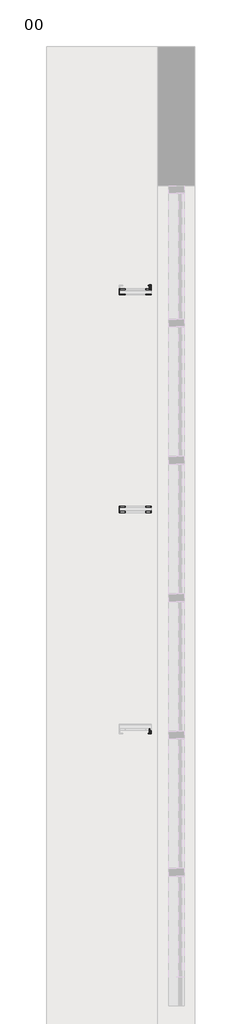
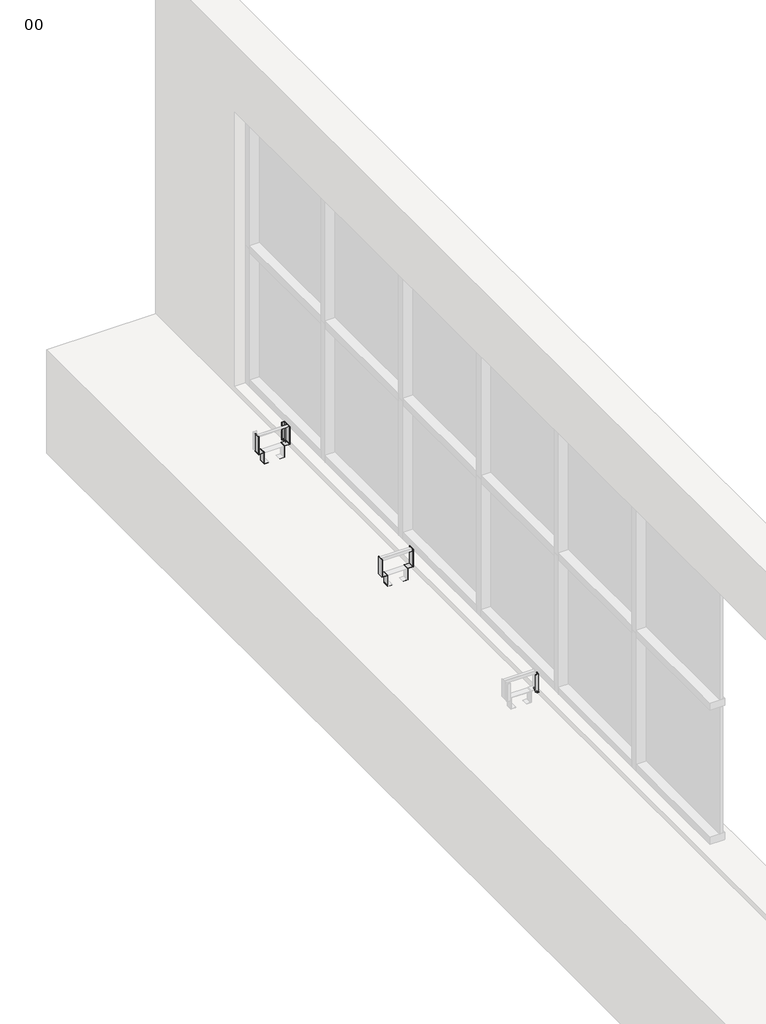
# One storey, part 4 of 4: 6 proxies.
"""IFC4 building model written with IfcOpenShell, lengths in millimetres."""

import ifcopenshell
import ifcopenshell.guid

model = None  # the IFC model being written
_history = None  # IfcOwnerHistory: only IFC2X3 demands one
_inside = {}  # id of a spatial element -> (the spatial element, [elements in it])
_under = {}  # id of a project, library or spatial element -> (it, [spatial elements below it])
_declared = {}  # id of a project -> (the project, [libraries it declares])
_typed = {}  # id of a type object -> (the type object, [elements of that type])
_made_of = {}  # id of a material, layer set ... -> (it, [elements and type objects made of it])


def new_model(schema):
    """Start an empty IFC model of exactly this schema.

    Asked for "IFC4X3", IfcOpenShell would pick the latest addendum, in which some entities
    have other attributes; the version numbers below select the first issue.
    IFC2X3 requires an IfcOwnerHistory on every rooted entity: one is made here for all.
    """
    global model, _history
    if schema == "IFC4X3":
        model = ifcopenshell.file(schema_version=(4, 3, 0, 0))
    else:
        model = ifcopenshell.file(schema=schema)
    _inside.clear()
    _under.clear()
    _declared.clear()
    _typed.clear()
    _made_of.clear()
    _history = None
    if model.schema == "IFC2X3":
        org = make("IfcOrganization", Name="unknown")
        user = make(
            "IfcPersonAndOrganization",
            ThePerson=make("IfcPerson", FamilyName="unknown"),
            TheOrganization=org,
        )
        app = make(
            "IfcApplication",
            ApplicationDeveloper=org,
            Version="unknown",
            ApplicationFullName="unknown",
            ApplicationIdentifier="unknown",
        )
        _history = make(
            "IfcOwnerHistory",
            OwningUser=user,
            OwningApplication=app,
            ChangeAction="ADDED",
            CreationDate=0,
        )
    return model


def make(cls, **values):
    """One entity of the class cls with the attributes given. An attribute that is None is left unset."""
    return model.create_entity(
        cls, **{name: value for name, value in values.items() if value is not None}
    )


def rooted(cls, **values):
    """An entity with a GlobalId (a new one), such as an element, a storey or a relation."""
    return make(cls, GlobalId=ifcopenshell.guid.new(), OwnerHistory=_history, **values)


def si_unit(unit_type, name, prefix=None):
    """IfcSIUnit, for example si_unit("LENGTHUNIT", "METRE", prefix="MILLI")."""
    return make("IfcSIUnit", UnitType=unit_type, Prefix=prefix, Name=name)


def assignment(units):
    """IfcUnitAssignment: the units of a project."""
    return None if units is None else make("IfcUnitAssignment", Units=units)


def point(xyz):
    """IfcCartesianPoint."""
    return None if xyz is None else make("IfcCartesianPoint", Coordinates=xyz)


def direction(xyz):
    """IfcDirection."""
    return None if xyz is None else make("IfcDirection", DirectionRatios=xyz)


def frame(location, z_axis=None, x_axis=None):
    """IfcAxis2Placement3D, a coordinate frame: its origin and axes. An axis left out is left unset."""
    return make(
        "IfcAxis2Placement3D",
        Location=point(location),
        Axis=direction(z_axis),
        RefDirection=direction(x_axis),
    )


def frame_2d(location, x_axis=None):
    """IfcAxis2Placement2D, a coordinate frame in the plane: its origin and x axis."""
    return make(
        "IfcAxis2Placement2D", Location=point(location), RefDirection=direction(x_axis)
    )


def origin():
    """The frame at (0, 0, 0) with its axes left unset."""
    return frame((0.0, 0.0, 0.0))


def place(relative_to, where):
    """IfcLocalPlacement: puts the frame where relative to a parent placement (None: the world)."""
    return make(
        "IfcLocalPlacement", PlacementRelTo=relative_to, RelativePlacement=where
    )


def context(
    kind, dimensions, precision=None, world=None, true_north=None, identifier=None
):
    """IfcGeometricRepresentationContext, for example the 3D "Model" context."""
    return make(
        "IfcGeometricRepresentationContext",
        ContextIdentifier=identifier,
        ContextType=kind,
        CoordinateSpaceDimension=dimensions,
        Precision=precision,
        WorldCoordinateSystem=world,
        TrueNorth=true_north,
    )


def project(units=None, contexts=None):
    """IfcProject with its units and contexts."""
    return rooted(
        "IfcProject",
        Name="project",
        RepresentationContexts=contexts,
        UnitsInContext=assignment(units),
    )


def spatial(cls, under=None, at=None, **own):
    """A site, building, storey or space (cls), placed at a placement, below another one or the project."""
    s = rooted(cls, ObjectPlacement=at, **own)
    if under is not None:
        _under.setdefault(under.id(), (under, []))[1].append(s)
    return s


def polyline(points):
    """IfcPolyline through the points."""
    return make("IfcPolyline", Points=[point(p) for p in points])


def circle_curve(where, radius):
    """IfcCircle in the frame where."""
    return make("IfcCircle", Position=where, Radius=radius)


def trimmed(basis, trim1, trim2, sense, master):
    """IfcTrimmedCurve: the piece of a basis curve between two trims."""
    return make(
        "IfcTrimmedCurve",
        BasisCurve=basis,
        Trim1=trim1,
        Trim2=trim2,
        SenseAgreement=sense,
        MasterRepresentation=master,
    )


def segment(curve, same_sense, transition):
    """IfcCompositeCurveSegment."""
    return make(
        "IfcCompositeCurveSegment",
        Transition=transition,
        SameSense=same_sense,
        ParentCurve=curve,
    )


def composite_curve(segments, self_intersect=None):
    """IfcCompositeCurve: segments joined end to end."""
    return make("IfcCompositeCurve", Segments=segments, SelfIntersect=self_intersect)


def outline(outer, holes=None, kind="AREA"):
    """IfcArbitraryClosedProfileDef: a profile drawn as a closed curve; with holes, ...WithVoids."""
    if holes is None:
        return make("IfcArbitraryClosedProfileDef", ProfileType=kind, OuterCurve=outer)
    return make(
        "IfcArbitraryProfileDefWithVoids",
        ProfileType=kind,
        OuterCurve=outer,
        InnerCurves=holes,
    )


def extrude(swept, where, along, depth):
    """IfcExtrudedAreaSolid: the profile swept, set in the frame where, extruded along a direction by depth."""
    return make(
        "IfcExtrudedAreaSolid",
        SweptArea=swept,
        Position=where,
        ExtrudedDirection=direction(along),
        Depth=depth,
    )


def shape(context_of_items, identifier, shape_type, items):
    """IfcShapeRepresentation: the items that make up one representation, for example the "Body"."""
    return make(
        "IfcShapeRepresentation",
        ContextOfItems=context_of_items,
        RepresentationIdentifier=identifier,
        RepresentationType=shape_type,
        Items=items,
    )


def made_of(thing, what):
    """Note that an element or type object is made of a material, layer set ...; save() writes the relation."""
    if what is not None:
        _made_of.setdefault(what.id(), (what, []))[1].append(thing)
    return thing


def element(
    cls,
    number,
    at=None,
    inside=None,
    cuts=None,
    type_object=None,
    material=None,
    context=None,
    identifier="Body",
    shape_type=None,
    held_by="IfcProductDefinitionShape",
    body=None,
    shapes=None,
    **own,
):
    """One element of the class cls, such as IfcWall. Its Tag is "e" and its number.

    at: its placement. inside: the storey or other place that contains it. cuts: it is an
    opening in that element (IfcRelVoidsElement). A single representation is given by context,
    identifier, shape_type and body (its items); several are given by shapes. held_by: the class
    of the entity that holds the representations. save() writes the other relations.
    """
    e = rooted(cls, Tag="e%d" % number, ObjectPlacement=at, **own)
    if body is not None:
        shapes = [shape(context, identifier, shape_type, body)]
    if shapes is not None:
        e.Representation = make(held_by, Representations=shapes)
    if inside is not None:
        _inside.setdefault(inside.id(), (inside, []))[1].append(e)
    if cuts is not None:
        rooted(
            "IfcRelVoidsElement", RelatingBuildingElement=cuts, RelatedOpeningElement=e
        )
    if type_object is not None:
        _typed.setdefault(type_object.id(), (type_object, []))[1].append(e)
    return made_of(e, material)


def aggregate(whole, parts):
    """IfcRelAggregates: a whole, such as a stair, and the parts it consists of."""
    return rooted("IfcRelAggregates", RelatingObject=whole, RelatedObjects=parts)


def save(model, path):
    """Write the relations noted so far, then the file.

    IfcRelAggregates (storeys below a building ...), IfcRelContainedInSpatialStructure (elements
    in a storey), IfcRelDefinesByType, IfcRelAssociatesMaterial and IfcRelDeclares: one each for
    every whole, place, type object, material and project.
    """
    for whole, parts in _under.values():
        aggregate(whole, parts)
    for where, things in _inside.values():
        rooted(
            "IfcRelContainedInSpatialStructure",
            RelatedElements=things,
            RelatingStructure=where,
        )
    for kind, things in _typed.values():
        rooted("IfcRelDefinesByType", RelatedObjects=things, RelatingType=kind)
    for what, things in _made_of.values():
        rooted("IfcRelAssociatesMaterial", RelatedObjects=things, RelatingMaterial=what)
    for by, libraries in _declared.values():
        rooted("IfcRelDeclares", RelatingContext=by, RelatedDefinitions=libraries)
    model.write(path)


def plane_surface(at):
    """IfcPlane: the flat surface through the origin of the frame at, square to its z axis."""
    return make("IfcPlane", Position=at)


def cylinder_surface(at, radius):
    """IfcCylindricalSurface: all points at the distance radius from the z axis of the frame at."""
    return make("IfcCylindricalSurface", Position=at, Radius=radius)


def revolved_surface(curve, axis_point, axis_direction):
    """IfcSurfaceOfRevolution: the curve turned about the line through axis_point along axis_direction."""
    return make(
        "IfcSurfaceOfRevolution",
        SweptCurve=make("IfcArbitraryOpenProfileDef", ProfileType="CURVE", Curve=curve),
        AxisPosition=make("IfcAxis1Placement", Location=point(axis_point), Axis=direction(axis_direction)),
    )


def advanced_brep(points, edges, surfaces, faces):
    """IfcAdvancedBrep: a solid bounded by faces that lie on surfaces and meet in shared edges.

    An edge is (start, end): straight between two places in points (the first is 0);
    or (start, end, curve); or (start, end, curve, False) where it runs against its curve.
    A face is (place in surfaces, loops), or (place, loops, False) where it looks against
    its surface's normal. A loop lists edges by number (the first is 1), with a minus sign
    where the edge is run from its end to its start. The first loop is the outer one.
    """
    corners = [point(p) for p in points]
    vertices = [make("IfcVertexPoint", VertexGeometry=c) for c in corners]
    made = []
    for start, end, *more in edges:
        made.append(
            make(
                "IfcEdgeCurve",
                EdgeStart=vertices[start],
                EdgeEnd=vertices[end],
                EdgeGeometry=more[0] if more else make("IfcPolyline", Points=[corners[start], corners[end]]),
                SameSense=more[1] if len(more) > 1 else True,
            )
        )
    hull = []
    for where, loops, *sense in faces:
        bounds = []
        for j, loop in enumerate(loops):
            ring = [make("IfcOrientedEdge", EdgeElement=made[abs(k) - 1], Orientation=k > 0) for k in loop]
            bounds.append(
                make(
                    "IfcFaceOuterBound" if j == 0 else "IfcFaceBound",
                    Bound=make("IfcEdgeLoop", EdgeList=ring),
                    Orientation=True,
                )
            )
        hull.append(make("IfcAdvancedFace", Bounds=bounds, FaceSurface=surfaces[where], SameSense=sense[0] if sense else True))
    return make("IfcAdvancedBrep", Outer=make("IfcClosedShell", CfsFaces=hull))


model = new_model("IFC4")

# Units and contexts
model_context = context("Model", 3, world=origin())
ifc_project = project(units=[si_unit("LENGTHUNIT", "METRE", prefix="MILLI")], contexts=[model_context])

# Site, building, storey
site = spatial("IfcSite", under=ifc_project)
building = spatial("IfcBuilding", under=site)
storey = spatial("IfcBuildingStorey", under=building, Name="00", Elevation=0.0)

# Proxies
placement = place(None, origin())
element("IfcBuildingElementProxy", 1, Name="Support Bracket 10 : Support Bracket 5", ObjectType="Support Bracket 10 : Support Bracket 5", at=placement, inside=storey, context=model_context, shape_type="AdvancedBrep", body=[
    advanced_brep(
    [(15892.2196715, 4669.1798189, 1014.9334541), (15892.2196715, 4669.1798189, 1025.525), (15889.0446715, 4669.1798189, 1025.525), (15889.0446715, 4669.1798189, 1013.5976257), (15893.1907346, 4669.1798189, 1009.4515625), (15904.9196715, 4669.1798189, 1009.4515625), (15904.9196715, 4669.1798189, 1012.6265625), (15894.5265631, 4669.1798189, 1012.6265625), (15889.0446715, 4717.9054803, 1025.525), (15892.2196715, 4717.9054803, 1025.525), (15892.2196715, 4717.9054803, 1014.9334541), (15894.5265631, 4717.9054803, 1012.6265625), (15904.9196715, 4717.9054803, 1012.6265625), (15904.9196715, 4717.9054803, 1009.4515625), (15893.1907346, 4717.9054803, 1009.4515625), (15889.0446715, 4717.9054803, 1013.5976257), (15889.0446715, 4715.3654803, 1025.525), (15892.2196715, 4715.3654803, 1025.525), (15889.0446715, 4712.1904803, 1025.525), (15889.0446715, 4712.1904803, 1014.7101563), (15889.0446715, 4715.3654803, 1014.7101563), (15892.2196715, 4715.3654803, 1014.9334541), (15892.2305041, 4715.3654803, 1014.7101563), (15892.2305041, 4712.1904803, 1014.7101563), (15892.2196715, 4712.1904803, 1014.9334541), (15892.2196715, 4712.1904803, 1025.525)],
    [
        (0, 1),
        (1, 2),
        (2, 3),
        (3, 4, circle_curve(frame((15893.1907346, 4669.1798189, 1013.5976257), z_axis=(0.0, -1.0, 0.0), x_axis=(1.0, 0.0, 0.0)), 4.1460632)),
        (4, 5),
        (5, 6),
        (6, 7),
        (7, 0, circle_curve(frame((15894.5265631, 4669.1798189, 1014.9334541), z_axis=(0.0, 1.0, 0.0), x_axis=(1.0, 0.0, 0.0)), 2.3068916)),
        (8, 9),
        (9, 10),
        (10, 11, circle_curve(frame((15894.5265631, 4717.9054803, 1014.9334541), z_axis=(0.0, -1.0, 0.0), x_axis=(1.0, 0.0, 0.0)), 2.3068916)),
        (11, 12),
        (12, 13),
        (13, 14),
        (14, 15, circle_curve(frame((15893.1907346, 4717.9054803, 1013.5976257), z_axis=(0.0, 1.0, 0.0), x_axis=(1.0, 0.0, 0.0)), 4.1460632)),
        (15, 8),
        (8, 16),
        (16, 17),
        (17, 9),
        (2, 18),
        (18, 19),
        (19, 20),
        (20, 16),
        (15, 3),
        (14, 4),
        (13, 5),
        (12, 6),
        (11, 7),
        (10, 21),
        (21, 22, circle_curve(frame((15894.5265631, 4715.3654803, 1014.9334541), z_axis=(0.0, -1.0, 0.0), x_axis=(1.0, 0.0, 0.0)), 2.3068916)),
        (22, 23),
        (23, 24, circle_curve(frame((15894.5265631, 4712.1904803, 1014.9334541), z_axis=(0.0, 1.0, 0.0), x_axis=(1.0, 0.0, 0.0)), 2.3068916)),
        (24, 0),
        (17, 21),
        (22, 20),
        (19, 23),
        (18, 25),
        (25, 24),
        (1, 25),
    ],
    [
        plane_surface(frame((15892.2196715, 4669.1798189, 1012.825), z_axis=(0.0, -1.0, 0.0), x_axis=(0.0, 0.0, 1.0))),
        plane_surface(frame((15892.2196715, 4717.9054803, 1012.825), z_axis=(0.0, 1.0, 0.0), x_axis=(0.0, 0.0, -1.0))),
        plane_surface(frame((15889.0446715, 4717.9054803, 1025.525), z_axis=(0.0, 0.0, 1.0), x_axis=(0.0, -1.0, 0.0))),
        plane_surface(frame((15889.0446715, 4717.9054803, 1013.5976257), z_axis=(-1.0, 0.0, 0.0), x_axis=(0.0, -1.0, 0.0))),
        cylinder_surface(frame((15893.1907346, 4669.1798189, 1013.5976257), z_axis=(0.0, 1.0, 0.0), x_axis=(1.0, 0.0, 0.0)), 4.1460632),
        plane_surface(frame((15904.9196715, 4717.9054803, 1009.4515625), z_axis=(0.0, 0.0, -1.0), x_axis=(0.0, -1.0, 0.0))),
        plane_surface(frame((15904.9196715, 4717.9054803, 1012.6265625), z_axis=(1.0, 0.0, 0.0), x_axis=(0.0, -1.0, 0.0))),
        plane_surface(frame((15894.5265631, 4717.9054803, 1012.6265625), z_axis=(0.0, 0.0, 1.0), x_axis=(0.0, -1.0, 0.0))),
        revolved_surface(polyline([(15896.8334547, 4669.1798189, 1014.9334541), (15896.8334547, 4717.9054803, 1014.9334541)]), (15894.5265631, 4669.1798189, 1014.9334541), (0.0, -1.0, 0.0)),
        plane_surface(frame((15892.2196715, 4717.9054803, 1025.525), z_axis=(1.0, 0.0, 0.0), x_axis=(0.0, -1.0, 0.0))),
        plane_surface(frame((15904.784734, 4712.3174803, 1014.7101563), z_axis=(0.0, 0.0, 1.0), x_axis=(-1.0, 0.0, 0.0))),
        plane_surface(frame((15880.908734, 4712.1904803, 1170.1042846), z_axis=(0.0, 1.0, 0.0), x_axis=(0.0, 0.0, -1.0))),
        plane_surface(frame((15904.784734, 4715.3654803, 1170.1042846), z_axis=(0.0, -1.0, 0.0), x_axis=(0.0, 0.0, -1.0))),
    ],
    [
        (0, [[1, 2, 3, 4, 5, 6, 7, 8]]),
        (1, [[9, 10, 11, 12, 13, 14, 15, 16]]),
        (2, [[-9, 17, 18, 19]]),
        (3, [[-3, 20, 21, 22, 23, -17, -16, 24]]),
        (4, [[-4, -24, -15, 25]]),
        (5, [[-5, -25, -14, 26]]),
        (6, [[-6, -26, -13, 27]]),
        (7, [[-7, -27, -12, 28]]),
        (8, [[-8, -28, -11, 29, 30, 31, 32, 33]]),
        (9, [[-10, -19, 34, -29]]),
        (10, [[35, -22, 36, -31]]),
        (11, [[-36, -21, 37, 38, -32]]),
        (12, [[-35, -30, -34, -18, -23]]),
        (2, [[-2, 39, -37, -20]]),
        (9, [[-1, -33, -38, -39]]),
    ],
),
])
element("IfcBuildingElementProxy", 2, Name="Support Bracket 11 : Support Bracket 1", ObjectType="Support Bracket 11 : Support Bracket 1", at=placement, inside=storey, context=model_context, shape_type="SweptSolid", body=[
    extrude(outline(composite_curve([segment(polyline([(1014.7101563, 15645.085609), (1014.7101563, 15685.8724527)]), True, "CONTINUOUS"), segment(trimmed(circle_curve(frame_2d((1011.6621563, 15685.8724527)), 3.048), [point((1014.7101563, 15685.8724527))], [point((1011.6621563, 15688.9204527))], True, "CARTESIAN"), True, "CONTINUOUS"), segment(polyline([(1011.6621563, 15688.9204527), (917.448, 15688.9204527)]), True, "CONTINUOUS"), segment(trimmed(circle_curve(frame_2d((917.448, 15691.9684527)), 3.048), [point((917.448, 15688.9204527))], [point((914.4, 15691.9684527))], False, "CARTESIAN"), True, "CONTINUOUS"), segment(polyline([(914.4, 15691.9684527), (914.4, 15730.1954527), (917.575, 15730.1954527), (917.575, 15695.1434527)]), True, "CONTINUOUS"), segment(trimmed(circle_curve(frame_2d((920.623, 15695.1434527)), 3.048), [point((917.575, 15695.1434527))], [point((920.623, 15692.0954527))], True, "CARTESIAN"), True, "CONTINUOUS"), segment(polyline([(920.623, 15692.0954527), (1014.8371563, 15692.0954527)]), True, "CONTINUOUS"), segment(trimmed(circle_curve(frame_2d((1014.8371563, 15689.0474527)), 3.048), [point((1014.8371563, 15692.0954527))], [point((1017.8851563, 15689.0474527))], False, "CARTESIAN"), True, "CONTINUOUS"), segment(polyline([(1017.8851563, 15689.0474527), (1017.8851563, 15649.403609)]), True, "CONTINUOUS"), segment(trimmed(circle_curve(frame_2d((1020.9331563, 15649.403609)), 3.048), [point((1017.8851563, 15649.403609))], [point((1020.9331563, 15646.355609))], True, "CARTESIAN"), True, "CONTINUOUS"), segment(polyline([(1020.9331563, 15646.355609), (1170.1042846, 15646.355609), (1170.1042846, 15643.180609), (1016.6151563, 15643.180609)]), True, "CONTINUOUS"), segment(trimmed(circle_curve(frame_2d((1016.6151563, 15645.085609)), 1.905), [point((1016.6151563, 15643.180609))], [point((1014.7101563, 15645.085609))], False, "CARTESIAN"), True, "CONTINUOUS")], self_intersect=False)), frame((0.0, 2848.9218866, 0.0), z_axis=(0.0, 1.0, 0.0), x_axis=(0.0, 0.0, 1.0)), (0.0, 0.0, 1.0), 50.8),
    extrude(outline(composite_curve([segment(trimmed(circle_curve(frame_2d((1016.6151563, 15904.403734)), 1.905), [point((1014.7101563, 15904.403734))], [point((1016.6151563, 15906.308734))], False, "CARTESIAN"), True, "CONTINUOUS"), segment(polyline([(1016.6151563, 15906.308734), (1170.1042846, 15906.308734), (1170.1042846, 15903.133734), (1020.9331563, 15903.133734)]), True, "CONTINUOUS"), segment(trimmed(circle_curve(frame_2d((1020.9331563, 15900.085734)), 3.048), [point((1020.9331563, 15903.133734))], [point((1017.8851563, 15900.085734))], True, "CARTESIAN"), True, "CONTINUOUS"), segment(polyline([(1017.8851563, 15900.085734), (1017.8851563, 15860.4418902)]), True, "CONTINUOUS"), segment(trimmed(circle_curve(frame_2d((1014.8371563, 15860.4418902)), 3.048), [point((1017.8851563, 15860.4418902))], [point((1014.8371563, 15857.3938902))], False, "CARTESIAN"), True, "CONTINUOUS"), segment(polyline([(1014.8371563, 15857.3938902), (920.623, 15857.3938902)]), True, "CONTINUOUS"), segment(trimmed(circle_curve(frame_2d((920.623, 15854.3458902)), 3.048), [point((920.623, 15857.3938902))], [point((917.575, 15854.3458902))], True, "CARTESIAN"), True, "CONTINUOUS"), segment(polyline([(917.575, 15854.3458902), (917.575, 15819.2938902), (914.4, 15819.2938902), (914.4, 15857.5208902)]), True, "CONTINUOUS"), segment(trimmed(circle_curve(frame_2d((917.448, 15857.5208902)), 3.048), [point((914.4, 15857.5208902))], [point((917.448, 15860.5688902))], False, "CARTESIAN"), True, "CONTINUOUS"), segment(polyline([(917.448, 15860.5688902), (1011.6621563, 15860.5688902)]), True, "CONTINUOUS"), segment(trimmed(circle_curve(frame_2d((1011.6621563, 15863.6168902)), 3.048), [point((1011.6621563, 15860.5688902))], [point((1014.7101563, 15863.6168902))], True, "CARTESIAN"), True, "CONTINUOUS"), segment(polyline([(1014.7101563, 15863.6168902), (1014.7101563, 15904.403734)]), True, "CONTINUOUS")], self_intersect=False)), frame((0.0, 2848.9218866, 0.0), z_axis=(0.0, 1.0, 0.0), x_axis=(0.0, 0.0, 1.0)), (0.0, 0.0, 1.0), 50.8),
])
element("IfcBuildingElementProxy", 3, Name="Support Bracket 4 : Support Bracket 4", ObjectType="Support Bracket 4 : Support Bracket 4", at=placement, inside=storey, context=model_context, shape_type="SweptSolid", body=[
    extrude(outline(composite_curve([segment(trimmed(circle_curve(frame_2d((15904.784734, 1034.8022928)), 1.524), [point((15906.308734, 1034.8022928))], [point((15904.784734, 1033.2782928))], False, "CARTESIAN"), True, "CONTINUOUS"), segment(polyline([(15904.784734, 1033.2782928), (15880.908734, 1033.2782928), (15880.908734, 1036.4532928), (15901.609734, 1036.4532928)]), True, "CONTINUOUS"), segment(trimmed(circle_curve(frame_2d((15901.609734, 1037.9772928)), 1.524), [point((15901.609734, 1036.4532928))], [point((15903.133734, 1037.9772928))], True, "CARTESIAN"), True, "CONTINUOUS"), segment(polyline([(15903.133734, 1037.9772928), (15903.133734, 1058.6782928), (15906.308734, 1058.6782928), (15906.308734, 1034.8022928)]), True, "CONTINUOUS")], self_intersect=False)), frame((0.0, 0.0, 1014.7101563), z_axis=(0.0, 0.0, 1.0), x_axis=(1.0, 0.0, 0.0)), (0.0, 0.0, 1.0), 155.3941284),
])
element("IfcBuildingElementProxy", 4, Name="Support Bracket 5 : Support Bracket 5", ObjectType="Support Bracket 5 : Support Bracket 5", at=placement, inside=storey, context=model_context, shape_type="AdvancedBrep", body=[
    advanced_brep(
    [(15892.2196715, 1079.4639543, 1025.525), (15892.2196715, 1079.4639543, 1014.9334541), (15894.5265631, 1079.4639543, 1012.6265625), (15904.9196715, 1079.4639543, 1012.6265625), (15904.9196715, 1079.4639543, 1009.4515625), (15893.1907346, 1079.4639543, 1009.4515625), (15889.0446715, 1079.4639543, 1013.5976257), (15889.0446715, 1079.4639543, 1025.525), (15892.2196715, 1030.7382928, 1025.525), (15889.0446715, 1030.7382928, 1025.525), (15889.0446715, 1030.7382928, 1013.5976257), (15893.1907346, 1030.7382928, 1009.4515625), (15904.9196715, 1030.7382928, 1009.4515625), (15904.9196715, 1030.7382928, 1012.6265625), (15894.5265631, 1030.7382928, 1012.6265625), (15892.2196715, 1030.7382928, 1014.9334541), (15892.2196715, 1033.2782928, 1025.525), (15889.0446715, 1033.2782928, 1025.525), (15889.0446715, 1033.2782928, 1014.7101563), (15889.0446715, 1036.4532928, 1014.7101563), (15889.0446715, 1036.4532928, 1025.525), (15892.2196715, 1036.4532928, 1014.9334541), (15892.2305041, 1036.4532928, 1014.7101563), (15892.2305041, 1033.2782928, 1014.7101563), (15892.2196715, 1033.2782928, 1014.9334541), (15892.2196715, 1036.4532928, 1025.525)],
    [
        (0, 1),
        (1, 2, circle_curve(frame((15894.5265631, 1079.4639543, 1014.9334541), z_axis=(0.0, -1.0, 0.0), x_axis=(1.0, 0.0, 0.0)), 2.3068916)),
        (2, 3),
        (3, 4),
        (4, 5),
        (5, 6, circle_curve(frame((15893.1907346, 1079.4639543, 1013.5976257), z_axis=(0.0, 1.0, 0.0), x_axis=(1.0, 0.0, 0.0)), 4.1460632)),
        (6, 7),
        (7, 0),
        (8, 9),
        (9, 10),
        (10, 11, circle_curve(frame((15893.1907346, 1030.7382928, 1013.5976257), z_axis=(0.0, -1.0, 0.0), x_axis=(1.0, 0.0, 0.0)), 4.1460632)),
        (11, 12),
        (12, 13),
        (13, 14),
        (14, 15, circle_curve(frame((15894.5265631, 1030.7382928, 1014.9334541), z_axis=(0.0, 1.0, 0.0), x_axis=(1.0, 0.0, 0.0)), 2.3068916)),
        (15, 8),
        (8, 16),
        (16, 17),
        (17, 9),
        (6, 10),
        (17, 18),
        (18, 19),
        (19, 20),
        (20, 7),
        (5, 11),
        (4, 12),
        (3, 13),
        (2, 14),
        (1, 21),
        (21, 22, circle_curve(frame((15894.5265631, 1036.4532928, 1014.9334541), z_axis=(0.0, -1.0, 0.0), x_axis=(1.0, 0.0, 0.0)), 2.3068916)),
        (22, 23),
        (23, 24, circle_curve(frame((15894.5265631, 1033.2782928, 1014.9334541), z_axis=(0.0, 1.0, 0.0), x_axis=(1.0, 0.0, 0.0)), 2.3068916)),
        (24, 15),
        (24, 16),
        (22, 19),
        (18, 23),
        (21, 25),
        (25, 20),
        (25, 0),
    ],
    [
        plane_surface(frame((15892.2196715, 1079.4639543, 1025.525), z_axis=(0.0, 1.0, 0.0), x_axis=(1.0, 0.0, 0.0))),
        plane_surface(frame((15892.2196715, 1030.7382928, 1025.525), z_axis=(0.0, -1.0, 0.0), x_axis=(-1.0, 0.0, 0.0))),
        plane_surface(frame((15892.2196715, 1030.7382928, 1025.525), z_axis=(0.0, 0.0, 1.0), x_axis=(0.0, 1.0, 0.0))),
        plane_surface(frame((15889.0446715, 1030.7382928, 1025.525), z_axis=(-1.0, 0.0, 0.0), x_axis=(0.0, 1.0, 0.0))),
        cylinder_surface(frame((15893.1907346, 1079.4639543, 1013.5976257), z_axis=(0.0, -1.0, 0.0), x_axis=(1.0, 0.0, 0.0)), 4.1460632),
        plane_surface(frame((15893.1907346, 1030.7382928, 1009.4515625), z_axis=(0.0, 0.0, -1.0), x_axis=(0.0, 1.0, 0.0))),
        plane_surface(frame((15904.9196715, 1030.7382928, 1009.4515625), z_axis=(1.0, 0.0, 0.0), x_axis=(0.0, 1.0, 0.0))),
        plane_surface(frame((15904.9196715, 1030.7382928, 1012.6265625), z_axis=(0.0, 0.0, 1.0), x_axis=(0.0, 1.0, 0.0))),
        revolved_surface(polyline([(15896.8334547, 1079.4639543, 1014.9334541), (15896.8334547, 1030.7382928, 1014.9334541)]), (15894.5265631, 1079.4639543, 1014.9334541), (0.0, 1.0, 0.0)),
        plane_surface(frame((15892.2196715, 1030.7382928, 1014.9334541), z_axis=(1.0, 0.0, 0.0), x_axis=(0.0, 1.0, 0.0))),
        plane_surface(frame((15906.308734, 1058.6782928, 1014.7101563), z_axis=(0.0, 0.0, 1.0), x_axis=(0.0, -1.0, 0.0))),
        plane_surface(frame((15901.609734, 1036.4532928, 1170.1042846), z_axis=(0.0, -1.0, 0.0), x_axis=(0.0, 0.0, -1.0))),
        plane_surface(frame((15880.908734, 1033.2782928, 1170.1042846), z_axis=(0.0, 1.0, 0.0), x_axis=(0.0, 0.0, -1.0))),
    ],
    [
        (0, [[1, 2, 3, 4, 5, 6, 7, 8]]),
        (1, [[9, 10, 11, 12, 13, 14, 15, 16]]),
        (2, [[-9, 17, 18, 19]]),
        (3, [[-7, 20, -10, -19, 21, 22, 23, 24]]),
        (4, [[-6, 25, -11, -20]]),
        (5, [[-5, 26, -12, -25]]),
        (6, [[-4, 27, -13, -26]]),
        (7, [[-3, 28, -14, -27]]),
        (8, [[-2, 29, 30, 31, 32, 33, -15, -28]]),
        (9, [[-16, -33, 34, -17]]),
        (10, [[35, -22, 36, -31]]),
        (11, [[-35, -30, 37, 38, -23]]),
        (12, [[-36, -21, -18, -34, -32]]),
        (2, [[-8, -24, -38, 39]]),
        (9, [[-1, -39, -37, -29]]),
    ],
),
])
element("IfcBuildingElementProxy", 5, Name="Support Bracket 6 : Support Bracket 1", ObjectType="Support Bracket 6 : Support Bracket 1", at=placement, inside=storey, context=model_context, shape_type="AdvancedBrep", body=[
    advanced_brep(
    [(15863.6168902, 4636.6254803, 1014.7101563), (15904.403734, 4636.6254803, 1014.7101563), (15906.308734, 4636.6254803, 1016.6151563), (15906.308734, 4636.6254803, 1170.1042846), (15903.133734, 4636.6254803, 1170.1042846), (15903.133734, 4636.6254803, 1020.9331563), (15900.085734, 4636.6254803, 1017.8851563), (15860.4418902, 4636.6254803, 1017.8851563), (15857.3938902, 4636.6254803, 1014.8371563), (15857.3938902, 4636.6254803, 920.623), (15854.3458902, 4636.6254803, 917.575), (15819.2938902, 4636.6254803, 917.575), (15819.2938902, 4636.6254803, 914.4), (15857.5208902, 4636.6254803, 914.4), (15860.5688902, 4636.6254803, 917.448), (15860.5688902, 4636.6254803, 1011.6621563), (15906.308734, 4687.4254803, 1016.6151563), (15904.403734, 4687.4254803, 1014.7101563), (15892.2305041, 4687.4254803, 1014.7101563), (15892.2196715, 4687.4254803, 1014.9334541), (15892.2196715, 4687.4254803, 1017.8851563), (15900.085734, 4687.4254803, 1017.8851563), (15903.133734, 4687.4254803, 1020.9331563), (15903.133734, 4687.4254803, 1170.1042846), (15906.308734, 4687.4254803, 1170.1042846), (15892.2196715, 4669.1798189, 1017.8851563), (15889.0446715, 4669.1798189, 1017.8851563), (15889.0446715, 4687.4254803, 1017.8851563), (15860.4418902, 4687.4254803, 1017.8851563), (15857.3938902, 4687.4254803, 1014.8371563), (15857.3938902, 4687.4254803, 920.623), (15854.3458902, 4687.4254803, 917.575), (15819.2938902, 4687.4254803, 917.575), (15819.2938902, 4687.4254803, 914.4), (15857.5208902, 4687.4254803, 914.4), (15860.5688902, 4687.4254803, 917.448), (15860.5688902, 4687.4254803, 1011.6621563), (15863.6168902, 4687.4254803, 1014.7101563), (15889.0446715, 4687.4254803, 1014.7101563), (15889.0446715, 4669.1798189, 1014.7101563), (15892.2305041, 4669.1798189, 1014.7101563), (15892.2196715, 4669.1798189, 1014.9334541)],
    [
        (0, 1),
        (1, 2, circle_curve(frame((15904.403734, 4636.6254803, 1016.6151563), z_axis=(0.0, -1.0, 0.0), x_axis=(-1.0, 0.0, 0.0)), 1.905)),
        (2, 3),
        (3, 4),
        (4, 5),
        (5, 6, circle_curve(frame((15900.085734, 4636.6254803, 1020.9331563), z_axis=(0.0, 1.0, 0.0), x_axis=(-1.0, 0.0, 0.0)), 3.048)),
        (6, 7),
        (7, 8, circle_curve(frame((15860.4418902, 4636.6254803, 1014.8371563), z_axis=(0.0, -1.0, 0.0), x_axis=(-1.0, 0.0, 0.0)), 3.048)),
        (8, 9),
        (9, 10, circle_curve(frame((15854.3458902, 4636.6254803, 920.623), z_axis=(0.0, 1.0, 0.0), x_axis=(-1.0, 0.0, 0.0)), 3.048)),
        (10, 11),
        (11, 12),
        (12, 13),
        (13, 14, circle_curve(frame((15857.5208902, 4636.6254803, 917.448), z_axis=(0.0, -1.0, 0.0), x_axis=(-1.0, 0.0, 0.0)), 3.048)),
        (14, 15),
        (15, 0, circle_curve(frame((15863.6168902, 4636.6254803, 1011.6621563), z_axis=(0.0, 1.0, 0.0), x_axis=(-1.0, 0.0, 0.0)), 3.048)),
        (16, 17, circle_curve(frame((15904.403734, 4687.4254803, 1016.6151563), z_axis=(0.0, 1.0, 0.0), x_axis=(-1.0, 0.0, 0.0)), 1.905)),
        (17, 18),
        (18, 19, circle_curve(frame((15894.5265631, 4687.4254803, 1014.9334541), z_axis=(0.0, 1.0, 0.0), x_axis=(1.0, 0.0, 0.0)), 2.3068916)),
        (19, 20),
        (20, 21),
        (21, 22, circle_curve(frame((15900.085734, 4687.4254803, 1020.9331563), z_axis=(0.0, -1.0, 0.0), x_axis=(-1.0, 0.0, 0.0)), 3.048)),
        (22, 23),
        (23, 24),
        (24, 16),
        (1, 17),
        (16, 2),
        (24, 3),
        (23, 4),
        (22, 5),
        (21, 6),
        (20, 25),
        (25, 26),
        (26, 27),
        (27, 28),
        (28, 7),
        (28, 29, circle_curve(frame((15860.4418902, 4687.4254803, 1014.8371563), z_axis=(0.0, -1.0, 0.0), x_axis=(-1.0, 0.0, 0.0)), 3.048)),
        (29, 8),
        (29, 30),
        (30, 9),
        (30, 31, circle_curve(frame((15854.3458902, 4687.4254803, 920.623), z_axis=(0.0, 1.0, 0.0), x_axis=(-1.0, 0.0, 0.0)), 3.048)),
        (31, 10),
        (31, 32),
        (32, 11),
        (32, 33),
        (33, 12),
        (33, 34),
        (34, 13),
        (34, 35, circle_curve(frame((15857.5208902, 4687.4254803, 917.448), z_axis=(0.0, -1.0, 0.0), x_axis=(-1.0, 0.0, 0.0)), 3.048)),
        (35, 14),
        (35, 36),
        (36, 15),
        (36, 37, circle_curve(frame((15863.6168902, 4687.4254803, 1011.6621563), z_axis=(0.0, 1.0, 0.0), x_axis=(-1.0, 0.0, 0.0)), 3.048)),
        (37, 0),
        (37, 38),
        (38, 39),
        (39, 40),
        (40, 18),
        (25, 41),
        (41, 40, circle_curve(frame((15894.5265631, 4669.1798189, 1014.9334541), z_axis=(0.0, -1.0, 0.0), x_axis=(1.0, 0.0, 0.0)), 2.3068916)),
        (39, 26),
        (38, 27),
        (41, 19),
    ],
    [
        plane_surface(frame((15646.990609, 4636.6254803, 1016.6151563), z_axis=(0.0, -1.0, 0.0), x_axis=(0.0, 0.0, 1.0))),
        plane_surface(frame((15646.990609, 4687.4254803, 1016.6151563), z_axis=(0.0, 1.0, 0.0), x_axis=(0.0, 0.0, -1.0))),
        cylinder_surface(frame((15904.403734, 4687.4254803, 1016.6151563), z_axis=(0.0, 1.0, 0.0), x_axis=(-1.0, 0.0, 0.0)), 1.905),
        plane_surface(frame((15906.308734, 4687.4254803, 1170.1042846), z_axis=(1.0, 0.0, 0.0), x_axis=(0.0, -1.0, 0.0))),
        plane_surface(frame((15903.133734, 4687.4254803, 1170.1042846), z_axis=(0.0, 0.0, 1.0), x_axis=(0.0, -1.0, 0.0))),
        plane_surface(frame((15903.133734, 4687.4254803, 1020.9331563), z_axis=(-1.0, 0.0, 0.0), x_axis=(0.0, -1.0, 0.0))),
        revolved_surface(polyline([(15897.037734, 4636.6254803, 1020.9331563), (15897.037734, 4687.4254803, 1020.9331563)]), (15900.085734, 4687.4254803, 1020.9331563), (0.0, -1.0, 0.0)),
        plane_surface(frame((15860.4418902, 4687.4254803, 1017.8851563), z_axis=(0.0, 0.0, 1.0), x_axis=(0.0, -1.0, 0.0))),
        cylinder_surface(frame((15860.4418902, 4687.4254803, 1014.8371563), z_axis=(0.0, 1.0, 0.0), x_axis=(-1.0, 0.0, 0.0)), 3.048),
        plane_surface(frame((15857.3938902, 4687.4254803, 920.623), z_axis=(-1.0, 0.0, 0.0), x_axis=(0.0, -1.0, 0.0))),
        revolved_surface(polyline([(15851.2978902, 4636.6254803, 920.623), (15851.2978902, 4687.4254803, 920.623)]), (15854.3458902, 4687.4254803, 920.623), (0.0, -1.0, 0.0)),
        plane_surface(frame((15819.2938902, 4687.4254803, 917.575), z_axis=(0.0, 0.0, 1.0), x_axis=(0.0, -1.0, 0.0))),
        plane_surface(frame((15819.2938902, 4687.4254803, 914.4), z_axis=(-1.0, 0.0, 0.0), x_axis=(0.0, -1.0, 0.0))),
        plane_surface(frame((15857.5208902, 4687.4254803, 914.4), z_axis=(0.0, 0.0, -1.0), x_axis=(0.0, -1.0, 0.0))),
        cylinder_surface(frame((15857.5208902, 4687.4254803, 917.448), z_axis=(0.0, 1.0, 0.0), x_axis=(-1.0, 0.0, 0.0)), 3.048),
        plane_surface(frame((15860.5688902, 4687.4254803, 1011.6621563), z_axis=(1.0, 0.0, 0.0), x_axis=(0.0, -1.0, 0.0))),
        revolved_surface(polyline([(15860.5688902, 4636.6254803, 1011.6621563), (15860.5688902, 4687.4254803, 1011.6621563)]), (15863.6168902, 4687.4254803, 1011.6621563), (0.0, -1.0, 0.0)),
        plane_surface(frame((15904.403734, 4687.4254803, 1014.7101563), z_axis=(0.0, 0.0, -1.0), x_axis=(0.0, -1.0, 0.0))),
        plane_surface(frame((15892.2196715, 4669.1798189, 1012.825), z_axis=(0.0, 1.0, 0.0), x_axis=(0.0, 0.0, 1.0))),
        plane_surface(frame((15889.0446715, 4717.9054803, 1013.5976257), z_axis=(1.0, 0.0, 0.0), x_axis=(0.0, -1.0, 0.0))),
        cylinder_surface(frame((15894.5265631, 4669.1798189, 1014.9334541), z_axis=(0.0, -1.0, 0.0), x_axis=(1.0, 0.0, 0.0)), 2.3068916),
        plane_surface(frame((15892.2196715, 4717.9054803, 1025.525), z_axis=(-1.0, 0.0, 0.0), x_axis=(0.0, -1.0, 0.0))),
    ],
    [
        (0, [[1, 2, 3, 4, 5, 6, 7, 8, 9, 10, 11, 12, 13, 14, 15, 16]]),
        (1, [[17, 18, 19, 20, 21, 22, 23, 24, 25]]),
        (2, [[-2, 26, -17, 27]]),
        (3, [[-3, -27, -25, 28]]),
        (4, [[-4, -28, -24, 29]]),
        (5, [[-5, -29, -23, 30]]),
        (6, [[-6, -30, -22, 31]]),
        (7, [[-7, -31, -21, 32, 33, 34, 35, 36]]),
        (8, [[-8, -36, 37, 38]]),
        (9, [[-9, -38, 39, 40]]),
        (10, [[-10, -40, 41, 42]]),
        (11, [[-11, -42, 43, 44]]),
        (12, [[-12, -44, 45, 46]]),
        (13, [[-13, -46, 47, 48]]),
        (14, [[-14, -48, 49, 50]]),
        (15, [[-15, -50, 51, 52]]),
        (16, [[-16, -52, 53, 54]]),
        (17, [[-1, -54, 55, 56, 57, 58, -18, -26]]),
        (18, [[59, 60, -57, 61, -33]]),
        (19, [[-61, -56, 62, -34]]),
        (20, [[-60, 63, -19, -58]]),
        (21, [[-59, -32, -20, -63]]),
        (1, [[-37, -35, -62, -55, -53, -51, -49, -47, -45, -43, -41, -39]]),
    ],
),
    advanced_brep(
    [(15685.8724527, 4636.6254803, 1014.7101563), (15645.085609, 4636.6254803, 1014.7101563), (15645.085609, 4687.4254803, 1014.7101563), (15685.8724527, 4687.4254803, 1014.7101563), (15688.9204527, 4636.6254803, 1011.6621563), (15688.9204527, 4687.4254803, 1011.6621563), (15688.9204527, 4636.6254803, 917.448), (15688.9204527, 4687.4254803, 917.448), (15691.9684527, 4636.6254803, 914.4), (15691.9684527, 4687.4254803, 914.4), (15730.1954527, 4636.6254803, 914.4), (15730.1954527, 4687.4254803, 914.4), (15730.1954527, 4636.6254803, 917.575), (15730.1954527, 4687.4254803, 917.575), (15695.1434527, 4636.6254803, 917.575), (15695.1434527, 4687.4254803, 917.575), (15692.0954527, 4636.6254803, 920.623), (15692.0954527, 4687.4254803, 920.623), (15692.0954527, 4636.6254803, 1014.8371563), (15692.0954527, 4687.4254803, 1014.8371563), (15689.0474527, 4636.6254803, 1017.8851563), (15689.0474527, 4687.4254803, 1017.8851563), (15649.403609, 4636.6254803, 1017.8851563), (15649.403609, 4687.4254803, 1017.8851563), (15646.355609, 4636.6254803, 1020.9331563), (15646.355609, 4687.4254803, 1020.9331563), (15646.355609, 4636.6254803, 1170.1042846), (15646.355609, 4687.4254803, 1170.1042846), (15643.180609, 4636.6254803, 1170.1042846), (15643.180609, 4687.4254803, 1170.1042846), (15643.180609, 4636.6254803, 1016.6151563), (15643.180609, 4687.4254803, 1016.6151563)],
    [
        (0, 1),
        (1, 2),
        (2, 3),
        (3, 0),
        (4, 0, circle_curve(frame((15685.8724527, 4636.6254803, 1011.6621563), z_axis=(0.0, -1.0, 0.0), x_axis=(1.0, 0.0, 0.0)), 3.048)),
        (3, 5, circle_curve(frame((15685.8724527, 4687.4254803, 1011.6621563), z_axis=(0.0, 1.0, 0.0), x_axis=(1.0, 0.0, 0.0)), 3.048)),
        (5, 4),
        (6, 4),
        (5, 7),
        (7, 6),
        (8, 6, circle_curve(frame((15691.9684527, 4636.6254803, 917.448), z_axis=(0.0, 1.0, 0.0), x_axis=(1.0, 0.0, 0.0)), 3.048)),
        (7, 9, circle_curve(frame((15691.9684527, 4687.4254803, 917.448), z_axis=(0.0, -1.0, 0.0), x_axis=(1.0, 0.0, 0.0)), 3.048)),
        (9, 8),
        (10, 8),
        (9, 11),
        (11, 10),
        (12, 10),
        (11, 13),
        (13, 12),
        (14, 12),
        (13, 15),
        (15, 14),
        (16, 14, circle_curve(frame((15695.1434527, 4636.6254803, 920.623), z_axis=(0.0, -1.0, 0.0), x_axis=(1.0, 0.0, 0.0)), 3.048)),
        (15, 17, circle_curve(frame((15695.1434527, 4687.4254803, 920.623), z_axis=(0.0, 1.0, 0.0), x_axis=(1.0, 0.0, 0.0)), 3.048)),
        (17, 16),
        (18, 16),
        (17, 19),
        (19, 18),
        (20, 18, circle_curve(frame((15689.0474527, 4636.6254803, 1014.8371563), z_axis=(0.0, 1.0, 0.0), x_axis=(1.0, 0.0, 0.0)), 3.048)),
        (19, 21, circle_curve(frame((15689.0474527, 4687.4254803, 1014.8371563), z_axis=(0.0, -1.0, 0.0), x_axis=(1.0, 0.0, 0.0)), 3.048)),
        (21, 20),
        (22, 20),
        (21, 23),
        (23, 22),
        (24, 22, circle_curve(frame((15649.403609, 4636.6254803, 1020.9331563), z_axis=(0.0, -1.0, 0.0), x_axis=(1.0, 0.0, 0.0)), 3.048)),
        (23, 25, circle_curve(frame((15649.403609, 4687.4254803, 1020.9331563), z_axis=(0.0, 1.0, 0.0), x_axis=(1.0, 0.0, 0.0)), 3.048)),
        (25, 24),
        (26, 24),
        (25, 27),
        (27, 26),
        (28, 26),
        (27, 29),
        (29, 28),
        (30, 28),
        (29, 31),
        (31, 30),
        (1, 30, circle_curve(frame((15645.085609, 4636.6254803, 1016.6151563), z_axis=(0.0, 1.0, 0.0), x_axis=(1.0, 0.0, 0.0)), 1.905)),
        (31, 2, circle_curve(frame((15645.085609, 4687.4254803, 1016.6151563), z_axis=(0.0, -1.0, 0.0), x_axis=(1.0, 0.0, 0.0)), 1.905)),
    ],
    [
        plane_surface(frame((15685.8724527, 4687.4254803, 1014.7101563), z_axis=(0.0, 0.0, -1.0), x_axis=(0.0, -1.0, 0.0))),
        revolved_surface(polyline([(15688.9204527, 4636.6254803, 1011.6621563), (15688.9204527, 4687.4254803, 1011.6621563)]), (15685.8724527, 4636.6254803, 1011.6621563), (0.0, -1.0, 0.0)),
        plane_surface(frame((15688.9204527, 4687.4254803, 917.448), z_axis=(-1.0, 0.0, 0.0), x_axis=(0.0, -1.0, 0.0))),
        cylinder_surface(frame((15691.9684527, 4636.6254803, 917.448), z_axis=(0.0, 1.0, 0.0), x_axis=(1.0, 0.0, 0.0)), 3.048),
        plane_surface(frame((15730.1954527, 4687.4254803, 914.4), z_axis=(0.0, 0.0, -1.0), x_axis=(0.0, -1.0, 0.0))),
        plane_surface(frame((15730.1954527, 4687.4254803, 917.575), z_axis=(1.0, 0.0, 0.0), x_axis=(0.0, -1.0, 0.0))),
        plane_surface(frame((15695.1434527, 4687.4254803, 917.575), z_axis=(0.0, 0.0, 1.0), x_axis=(0.0, -1.0, 0.0))),
        revolved_surface(polyline([(15698.1914527, 4636.6254803, 920.623), (15698.1914527, 4687.4254803, 920.623)]), (15695.1434527, 4636.6254803, 920.623), (0.0, -1.0, 0.0)),
        plane_surface(frame((15692.0954527, 4687.4254803, 1014.8371563), z_axis=(1.0, 0.0, 0.0), x_axis=(0.0, -1.0, 0.0))),
        cylinder_surface(frame((15689.0474527, 4636.6254803, 1014.8371563), z_axis=(0.0, 1.0, 0.0), x_axis=(1.0, 0.0, 0.0)), 3.048),
        plane_surface(frame((15649.403609, 4687.4254803, 1017.8851563), z_axis=(0.0, 0.0, 1.0), x_axis=(0.0, -1.0, 0.0))),
        revolved_surface(polyline([(15652.451609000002, 4636.6254803, 1020.9331563), (15652.451609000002, 4687.4254803, 1020.9331563)]), (15649.403609, 4636.6254803, 1020.9331563), (0.0, -1.0, 0.0)),
        plane_surface(frame((15646.355609, 4687.4254803, 1170.1042846), z_axis=(1.0, 0.0, 0.0), x_axis=(0.0, -1.0, 0.0))),
        plane_surface(frame((15643.180609, 4687.4254803, 1170.1042846), z_axis=(0.0, 0.0, 1.0), x_axis=(0.0, -1.0, 0.0))),
        plane_surface(frame((15643.180609, 4687.4254803, 1016.6151563), z_axis=(-1.0, 0.0, 0.0), x_axis=(0.0, -1.0, 0.0))),
        cylinder_surface(frame((15645.085609, 4636.6254803, 1016.6151563), z_axis=(0.0, 1.0, 0.0), x_axis=(1.0, 0.0, 0.0)), 1.905),
        plane_surface(frame((15646.990609, 4636.6254803, 1016.6151563), z_axis=(0.0, -1.0, 0.0), x_axis=(0.0, 0.0, 1.0))),
        plane_surface(frame((15646.990609, 4687.4254803, 1016.6151563), z_axis=(0.0, 1.0, 0.0), x_axis=(0.0, 0.0, -1.0))),
    ],
    [
        (0, [[1, 2, 3, 4]]),
        (1, [[5, -4, 6, 7]]),
        (2, [[8, -7, 9, 10]]),
        (3, [[11, -10, 12, 13]]),
        (4, [[14, -13, 15, 16]]),
        (5, [[17, -16, 18, 19]]),
        (6, [[20, -19, 21, 22]]),
        (7, [[23, -22, 24, 25]]),
        (8, [[26, -25, 27, 28]]),
        (9, [[29, -28, 30, 31]]),
        (10, [[32, -31, 33, 34]]),
        (11, [[35, -34, 36, 37]]),
        (12, [[38, -37, 39, 40]]),
        (13, [[41, -40, 42, 43]]),
        (14, [[44, -43, 45, 46]]),
        (15, [[47, -46, 48, -2]]),
        (16, [[-47, -1, -5, -8, -11, -14, -17, -20, -23, -26, -29, -32, -35, -38, -41, -44]]),
        (17, [[-3, -48, -45, -42, -39, -36, -33, -30, -27, -24, -21, -18, -15, -12, -9, -6]]),
    ],
),
])
element("IfcBuildingElementProxy", 6, Name="Support Bracket 8 : Support Bracket 4", ObjectType="Support Bracket 8 : Support Bracket 4", at=placement, inside=storey, context=model_context, shape_type="SweptSolid", body=[
    extrude(outline(composite_curve([segment(polyline([(15906.308734, 4713.8414803), (15906.308734, 4689.9654803), (15903.133734, 4689.9654803), (15903.133734, 4710.6664803)]), True, "CONTINUOUS"), segment(trimmed(circle_curve(frame_2d((15901.609734, 4710.6664803)), 1.524), [point((15903.133734, 4710.6664803))], [point((15901.609734, 4712.1904803))], True, "CARTESIAN"), True, "CONTINUOUS"), segment(polyline([(15901.609734, 4712.1904803), (15880.908734, 4712.1904803), (15880.908734, 4715.3654803), (15904.784734, 4715.3654803)]), True, "CONTINUOUS"), segment(trimmed(circle_curve(frame_2d((15904.784734, 4713.8414803)), 1.524), [point((15904.784734, 4715.3654803))], [point((15906.308734, 4713.8414803))], False, "CARTESIAN"), True, "CONTINUOUS")], self_intersect=False)), frame((0.0, 0.0, 1014.7101563), z_axis=(0.0, 0.0, 1.0), x_axis=(1.0, 0.0, 0.0)), (0.0, 0.0, 1.0), 155.3941284),
])

save(model, "model.ifc")
